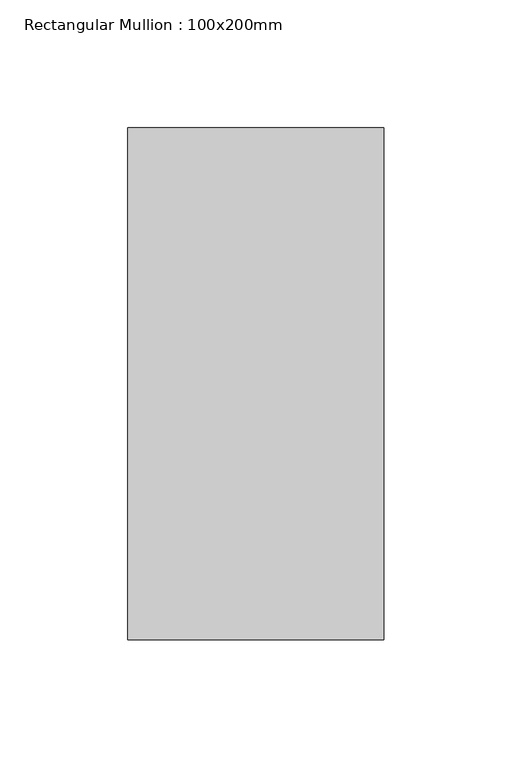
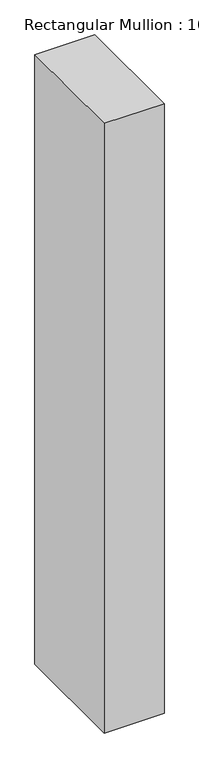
"""IFC4 building model written with IfcOpenShell, lengths in millimetres: member geometry, Rectangular Mullion : 100x200mm."""

from ifc_helpers import new_model, si_unit, frame, origin, place, context, project, spatial, polyline, outline, extrude, source, transform, mapped, element, save


def rectangular_mullion_100x200mm_3335e4ba(model_context):
    return source(origin(), model_context, "Body", "SweptSolid", [
        extrude(outline(polyline([(0.0, 100.0), (0.0, -100.0), (-100.0, -100.0), (-100.0, 100.0), (0.0, 100.0)])), frame((0.0, 0.0, -1075.4272728), z_axis=(0.0, 0.0, 1.0), x_axis=(1.0, 0.0, 0.0)), (0.0, 0.0, 1.0), 1075.4272728),
    ])


if __name__ == "__main__":
    model = new_model("IFC4")
    model_context = context("Model", 3, world=origin())
    ifc_project = project(units=[si_unit("LENGTHUNIT", "METRE", prefix="MILLI")], contexts=[model_context])
    site = spatial("IfcSite", under=ifc_project)
    building = spatial("IfcBuilding", under=site)
    placement = place(None, origin())
    rectangular_mullion_100x200mm_shape = rectangular_mullion_100x200mm_3335e4ba(model_context)
    element("IfcMember", 1, ObjectType="Rectangular Mullion : 100x200mm", at=placement, inside=building, context=model_context, shape_type="MappedRepresentation", body=[
        mapped(rectangular_mullion_100x200mm_shape, transform((0.0, 0.0, 0.0), x_axis=(1.0, 0.0, 0.0), y_axis=(0.0, 1.0, 0.0), z_axis=(0.0, 0.0, 1.0))),
    ])
    save(model, "model.ifc")
